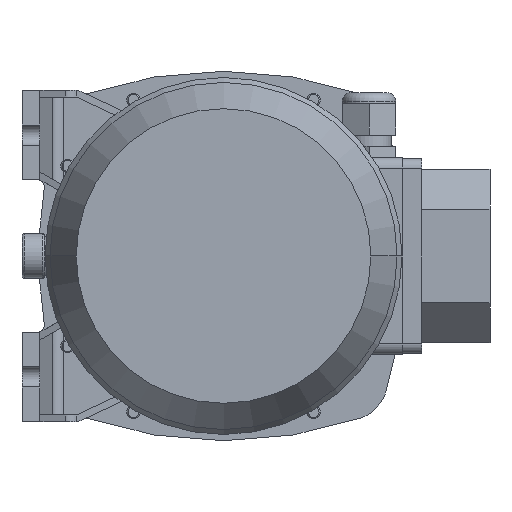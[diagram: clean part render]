
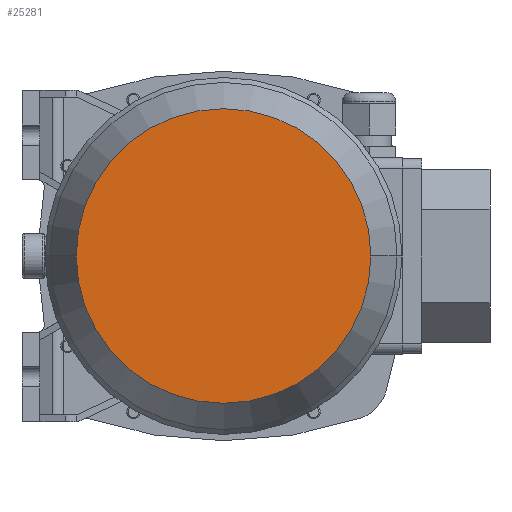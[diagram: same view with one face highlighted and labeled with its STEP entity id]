
A CAD part, front view. The second image highlights one B-rep face of the part: STEP entity #25281.
In plain terms, the highlighted planar face has unit normal (0, -1, 0) as drawn and (1, 0, 0) by its records, which use the part's own axes.
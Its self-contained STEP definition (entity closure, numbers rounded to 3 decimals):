
#18593=CARTESIAN_POINT('',(228.,0.,0.));
#18594=DIRECTION('',(-1.,0.,0.));
#18595=DIRECTION('',(0.,1.,0.));
#18596=AXIS2_PLACEMENT_3D('',#18593,#18594,#18595);
#18601=CARTESIAN_POINT('',(228.,0.,0.));
#18602=DIRECTION('',(1.,0.,0.));
#18603=DIRECTION('',(0.,1.,0.));
#18604=AXIS2_PLACEMENT_3D('',#18601,#18602,#18603);
#20574=CARTESIAN_POINT('',(228.,65.794,0.));
#20576=VERTEX_POINT('',#20574);
#20584=CARTESIAN_POINT('',(228.,-65.794,0.));
#20586=VERTEX_POINT('',#20584);
#25272=CARTESIAN_POINT('',(228.,0.,0.));
#25273=DIRECTION('',(1.,0.,0.));
#25274=DIRECTION('',(0.,-1.,0.));
#25275=AXIS2_PLACEMENT_3D('',#25272,#25273,#25274);
#25276=PLANE('',#25275);
#25277=ORIENTED_EDGE('',*,*,#25254,.T.);
#25278=ORIENTED_EDGE('',*,*,#25265,.F.);
#25279=EDGE_LOOP('',(#25277,#25278));
#25280=FACE_OUTER_BOUND('',#25279,.F.);
#18597=CIRCLE('',#18596,65.794);
#18605=CIRCLE('',#18604,65.794);
#25254=EDGE_CURVE('',#20576,#20586,#18597,.T.);
#25265=EDGE_CURVE('',#20576,#20586,#18605,.T.);
#25281=ADVANCED_FACE('',(#25280),#25276,.T.);
